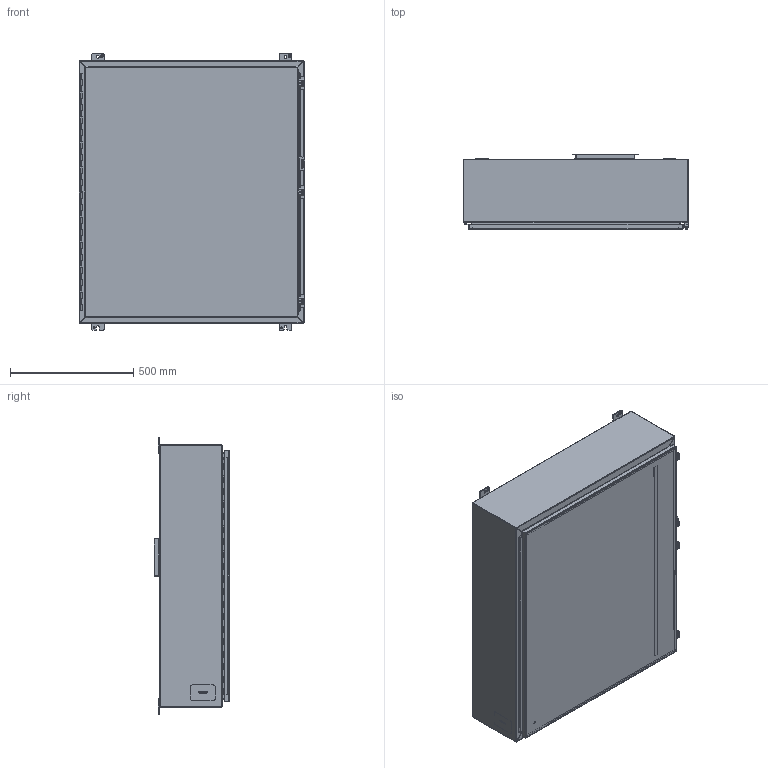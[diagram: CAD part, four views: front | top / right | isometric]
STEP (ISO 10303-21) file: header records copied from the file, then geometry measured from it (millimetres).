
FILE_DESCRIPTION(/* description */ ('Unknown'),/* implementation_level */ '2;1');
FILE_NAME(/* name */ '1418P10LP',/* time_stamp */ '2026-02-20T16:35:53-05:00',/* author */ ('Unknown'),/* organization */ ('Unknown'),/* preprocessor_version */ 'ST-DEVELOPER v18.104',/* originating_system */ 'Solid Edge',/* authorisation */ 'Unknown');
FILE_SCHEMA (('AUTOMOTIVE_DESIGN {1 0 10303 214 3 1 1}'));
Length unit declared in the file: millimetre
Products named in the file (33): 1418P10LP; STD26094; STD21878; COM42780; QLB20254; COM40153-1; COM71782-3; COM40153-2; COM53845-2; HNG10620-38C; COM70219_oa_0; PNT11078; COM48495; FET07710; AKT90223; SPR20265; SCC19011; WAF25035; COM42667; KIT90256; LAB30005; NTS165305; NTS16535; BUL10020; QLB30109; PKT99; COM70236-2; HNG10620-38B; KIT90521; WAF25059; NTS166105; HNG10620-38P
Assembly tree (49 placements, depth 3):
  1418P10LP
    STD26094  x8
    STD21878
    COM42780  x3
    QLB20254
    COM40153-1
    COM71782-3
      COM40153-2
      COM53845-2
      COM71782-3
      STD21878
      HNG10620-38C
      COM70219_oa_0
      PNT11078
    COM48495
    FET07710  x4
    AKT90223  x3
      SPR20265
      SCC19011
      WAF25035
      COM42667
    KIT90256
      LAB30005
      NTS165305
      NTS16535
    BUL10020
    QLB30109
    PKT99
    COM70236-2  x2
    HNG10620-38B
    KIT90521
      WAF25059
      NTS166105
    PNT11078
    HNG10620-38P
Bounding box: 917.58 x 307.98 x 1123.95 mm (x, y, z)
Volume: 6370104.2 mm3; surface area: 6951763.6 mm2
Topology: 47 solids, 48 shells, 1572 faces, 4059 edges, 2644 vertices
Faces by surface type: plane 1026, cylinder 403, bspline 77, torus 34, cone 30, sphere 2
Full cylindrical faces by diameter (mm): 3.175 x1, 4.763 x1, 4.976 x1, 5.41 x3, 6.198 x3, 6.35 x3, 6.731 x3, 7.137 x2, 7.805 x1, 7.938 x4, 8.382 x8, 9.525 x8, 9.906 x3, 11.113 x4, 11.303 x1, 12.7 x3, 16.51 x8, 25.4 x1, 88.9 x1
Entity records: 36622 total; most frequent: CARTESIAN_POINT 10327, ORIENTED_EDGE 5370, DIRECTION 4922, EDGE_CURVE 2685, LINE 1766, VECTOR 1766, VERTEX_POINT 1765, AXIS2_PLACEMENT_3D 1578
